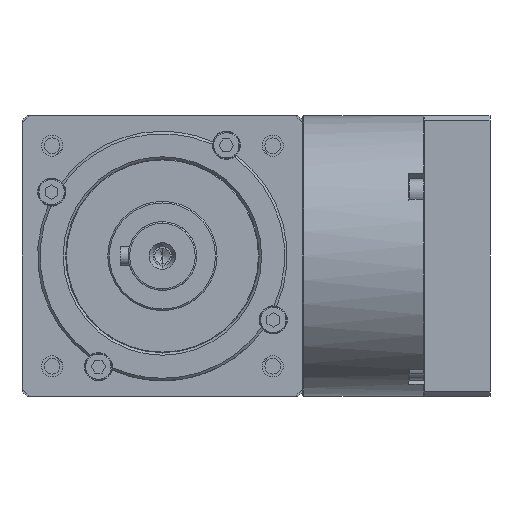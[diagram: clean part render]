
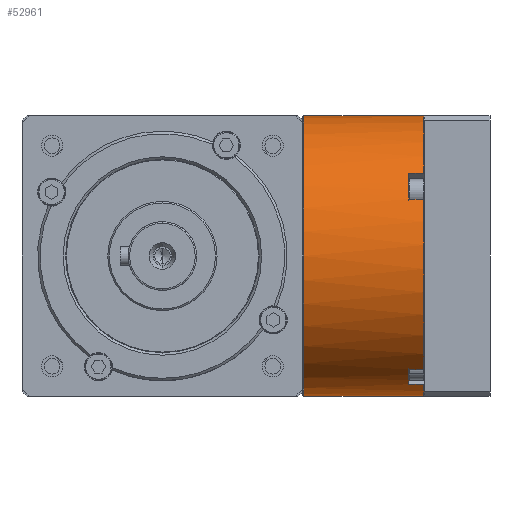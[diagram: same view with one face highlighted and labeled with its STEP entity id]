
A CAD part, front view. The second image highlights one B-rep face of the part: STEP entity #52961.
In plain terms, the highlighted cylindrical face has radius 45 mm (diameter 90 mm), a partial arc.
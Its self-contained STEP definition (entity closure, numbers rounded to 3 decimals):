
#32067 = CIRCLE ( 'NONE', #32071, 45. ) ;
#32071 = AXIS2_PLACEMENT_3D ( 'NONE', #47739, #47740, #47741 ) ;
#32091 = VECTOR ( 'NONE', #47819, 1000. ) ;
#32092 = VECTOR ( 'NONE', #47833, 1000. ) ;
#32153 = CIRCLE ( 'NONE', #32186, 45. ) ;
#32178 = CIRCLE ( 'NONE', #32181, 45. ) ;
#32181 = AXIS2_PLACEMENT_3D ( 'NONE', #48167, #48169, #48170 ) ;
#32186 = AXIS2_PLACEMENT_3D ( 'NONE', #48187, #48189, #48191 ) ;
#32188 = CIRCLE ( 'NONE', #32192, 45. ) ;
#32192 = AXIS2_PLACEMENT_3D ( 'NONE', #48213, #48215, #48216 ) ;
#32198 = CIRCLE ( 'NONE', #32205, 45. ) ;
#32204 = VECTOR ( 'NONE', #48277, 1000. ) ;
#32205 = AXIS2_PLACEMENT_3D ( 'NONE', #48271, #48273, #48274 ) ;
#32206 = VECTOR ( 'NONE', #48283, 1000. ) ;
#32207 = CIRCLE ( 'NONE', #32209, 45. ) ;
#32208 = VECTOR ( 'NONE', #48294, 1000. ) ;
#32209 = AXIS2_PLACEMENT_3D ( 'NONE', #48288, #48289, #48291 ) ;
#32210 = VECTOR ( 'NONE', #48300, 1000. ) ;
#47739 = CARTESIAN_POINT ( 'NONE',  ( 27.154, 29.768, 0. ) ) ;
#47740 = DIRECTION ( 'NONE',  ( -1., 0., 0. ) ) ;
#47741 = DIRECTION ( 'NONE',  ( 0., 0., 1. ) ) ;
#47805 = CARTESIAN_POINT ( 'NONE',  ( 27.154, 29.768, -45. ) ) ;
#47808 = CARTESIAN_POINT ( 'NONE',  ( 27.154, 29.768, 45. ) ) ;
#47811 = LINE ( 'NONE', #47805, #32091 ) ;
#47819 = DIRECTION ( 'NONE',  ( -1., 0., 0. ) ) ;
#47825 = LINE ( 'NONE', #47808, #32092 ) ;
#47833 = DIRECTION ( 'NONE',  ( -1., 0., 0. ) ) ;
#48167 = CARTESIAN_POINT ( 'NONE',  ( -11.246, 29.768, 0. ) ) ;
#48169 = DIRECTION ( 'NONE',  ( -1., 0., 0. ) ) ;
#48170 = DIRECTION ( 'NONE',  ( 0., 0., 1. ) ) ;
#48187 = CARTESIAN_POINT ( 'NONE',  ( 22.354, 29.768, 0. ) ) ;
#48189 = DIRECTION ( 'NONE',  ( 1., 0., 0. ) ) ;
#48191 = DIRECTION ( 'NONE',  ( 0., 0., 1. ) ) ;
#48213 = CARTESIAN_POINT ( 'NONE',  ( 22.354, 29.768, 0. ) ) ;
#48215 = DIRECTION ( 'NONE',  ( 1., 0., 0. ) ) ;
#48216 = DIRECTION ( 'NONE',  ( 0., 0., 1. ) ) ;
#48258 = CARTESIAN_POINT ( 'NONE',  ( 24.904, 11.507, -41.128 ) ) ;
#48260 = LINE ( 'NONE', #48258, #32204 ) ;
#48267 = LINE ( 'NONE', #48269, #32208 ) ;
#48269 = CARTESIAN_POINT ( 'NONE',  ( 24.904, -11.361, 18.261 ) ) ;
#48271 = CARTESIAN_POINT ( 'NONE',  ( 27.154, 29.768, 0. ) ) ;
#48273 = DIRECTION ( 'NONE',  ( -1., 0., 0. ) ) ;
#48274 = DIRECTION ( 'NONE',  ( 0., 0., 1. ) ) ;
#48277 = DIRECTION ( 'NONE',  ( -1., 0., 0. ) ) ;
#48279 = LINE ( 'NONE', #48281, #32206 ) ;
#48281 = CARTESIAN_POINT ( 'NONE',  ( 24.904, 3.28, -36.378 ) ) ;
#48283 = DIRECTION ( 'NONE',  ( 1., 0., 0. ) ) ;
#48288 = CARTESIAN_POINT ( 'NONE',  ( 27.154, 29.768, 0. ) ) ;
#48289 = DIRECTION ( 'NONE',  ( -1., 0., 0. ) ) ;
#48291 = DIRECTION ( 'NONE',  ( 0., 0., 1. ) ) ;
#48294 = DIRECTION ( 'NONE',  ( -1., 0., 0. ) ) ;
#48295 = LINE ( 'NONE', #48298, #32210 ) ;
#48298 = CARTESIAN_POINT ( 'NONE',  ( 24.904, -6.611, 26.488 ) ) ;
#48300 = DIRECTION ( 'NONE',  ( 1., 0., 0. ) ) ;
#51399 = AXIS2_PLACEMENT_3D ( 'NONE', #55239, #55230, #55243 ) ;
#52588 = EDGE_CURVE ( 'NONE', #54292, #54293, #32067, .T. ) ;
#52607 = EDGE_CURVE ( 'NONE', #54302, #54309, #47811, .T. ) ;
#52609 = EDGE_CURVE ( 'NONE', #54293, #54308, #47825, .T. ) ;
#52661 = EDGE_CURVE ( 'NONE', #54309, #54308, #32178, .T. ) ;
#52664 = EDGE_CURVE ( 'NONE', #54323, #54347, #32153, .T. ) ;
#52668 = EDGE_CURVE ( 'NONE', #54349, #54351, #32188, .T. ) ;
#52677 = EDGE_CURVE ( 'NONE', #54302, #54340, #32198, .T. ) ;
#52678 = EDGE_CURVE ( 'NONE', #54340, #54351, #48260, .T. ) ;
#52679 = EDGE_CURVE ( 'NONE', #54349, #54350, #48279, .T. ) ;
#52680 = EDGE_CURVE ( 'NONE', #54350, #54358, #32207, .T. ) ;
#52681 = EDGE_CURVE ( 'NONE', #54358, #54347, #48267, .T. ) ;
#52682 = EDGE_CURVE ( 'NONE', #54323, #54292, #48295, .T. ) ;
#52961 = ADVANCED_FACE ( 'NONE', ( #55237 ), #55241, .T. ) ;
#54292 = VERTEX_POINT ( 'NONE', #58121 ) ;
#54293 = VERTEX_POINT ( 'NONE', #58122 ) ;
#54302 = VERTEX_POINT ( 'NONE', #58131 ) ;
#54308 = VERTEX_POINT ( 'NONE', #58137 ) ;
#54309 = VERTEX_POINT ( 'NONE', #58138 ) ;
#54323 = VERTEX_POINT ( 'NONE', #58152 ) ;
#54340 = VERTEX_POINT ( 'NONE', #58169 ) ;
#54347 = VERTEX_POINT ( 'NONE', #58176 ) ;
#54349 = VERTEX_POINT ( 'NONE', #58178 ) ;
#54350 = VERTEX_POINT ( 'NONE', #58179 ) ;
#54351 = VERTEX_POINT ( 'NONE', #58180 ) ;
#54358 = VERTEX_POINT ( 'NONE', #58187 ) ;
#55230 = DIRECTION ( 'NONE',  ( -1., 0., 0. ) ) ;
#55237 = FACE_OUTER_BOUND ( 'NONE', #56150, .T. ) ;
#55239 = CARTESIAN_POINT ( 'NONE',  ( 27.154, 29.768, 0. ) ) ;
#55241 = CYLINDRICAL_SURFACE ( 'NONE', #51399, 45. ) ;
#55243 = DIRECTION ( 'NONE',  ( 0., 0., 1. ) ) ;
#56150 = EDGE_LOOP ( 'NONE', ( #58217, #58218, #58219, #58220, #58221, #58222, #58223, #58224, #58225, #58226, #58227, #58228 ) ) ;
#58121 = CARTESIAN_POINT ( 'NONE',  ( 27.154, -6.611, 26.488 ) ) ;
#58122 = CARTESIAN_POINT ( 'NONE',  ( 27.154, 29.768, 45. ) ) ;
#58131 = CARTESIAN_POINT ( 'NONE',  ( 27.154, 29.768, -45. ) ) ;
#58137 = CARTESIAN_POINT ( 'NONE',  ( -11.246, 29.768, 45. ) ) ;
#58138 = CARTESIAN_POINT ( 'NONE',  ( -11.246, 29.768, -45. ) ) ;
#58152 = CARTESIAN_POINT ( 'NONE',  ( 22.354, -6.611, 26.488 ) ) ;
#58169 = CARTESIAN_POINT ( 'NONE',  ( 27.154, 11.507, -41.128 ) ) ;
#58176 = CARTESIAN_POINT ( 'NONE',  ( 22.354, -11.361, 18.261 ) ) ;
#58178 = CARTESIAN_POINT ( 'NONE',  ( 22.354, 3.28, -36.378 ) ) ;
#58179 = CARTESIAN_POINT ( 'NONE',  ( 27.154, 3.28, -36.378 ) ) ;
#58180 = CARTESIAN_POINT ( 'NONE',  ( 22.354, 11.507, -41.128 ) ) ;
#58187 = CARTESIAN_POINT ( 'NONE',  ( 27.154, -11.361, 18.261 ) ) ;
#58217 = ORIENTED_EDGE ( 'NONE', *, *, #52607, .F. ) ;
#58218 = ORIENTED_EDGE ( 'NONE', *, *, #52677, .T. ) ;
#58219 = ORIENTED_EDGE ( 'NONE', *, *, #52678, .T. ) ;
#58220 = ORIENTED_EDGE ( 'NONE', *, *, #52668, .F. ) ;
#58221 = ORIENTED_EDGE ( 'NONE', *, *, #52679, .T. ) ;
#58222 = ORIENTED_EDGE ( 'NONE', *, *, #52680, .T. ) ;
#58223 = ORIENTED_EDGE ( 'NONE', *, *, #52681, .T. ) ;
#58224 = ORIENTED_EDGE ( 'NONE', *, *, #52664, .F. ) ;
#58225 = ORIENTED_EDGE ( 'NONE', *, *, #52682, .T. ) ;
#58226 = ORIENTED_EDGE ( 'NONE', *, *, #52588, .T. ) ;
#58227 = ORIENTED_EDGE ( 'NONE', *, *, #52609, .T. ) ;
#58228 = ORIENTED_EDGE ( 'NONE', *, *, #52661, .F. ) ;
